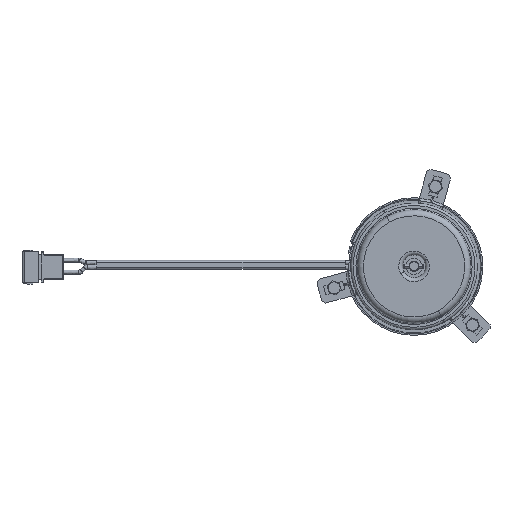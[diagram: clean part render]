
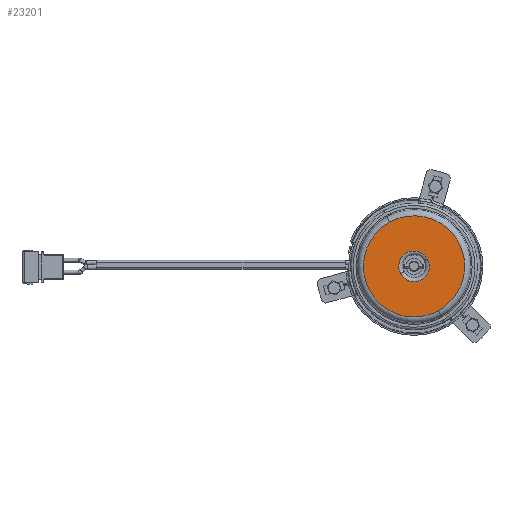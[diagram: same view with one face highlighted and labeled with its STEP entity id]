
A CAD part, top view. The second image highlights one B-rep face of the part: STEP entity #23201.
In plain terms, the highlighted planar face has unit normal (0, 0, 1).
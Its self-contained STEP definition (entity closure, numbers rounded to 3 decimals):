
#23081=AXIS2_PLACEMENT_3D('Circle Axis2P3D',#23079,#23080,$) ;
#23114=AXIS2_PLACEMENT_3D('Circle Axis2P3D',#23112,#23113,$) ;
#23177=AXIS2_PLACEMENT_3D('Plane Axis2P3D',#23174,#23175,#23176) ;
#23185=AXIS2_PLACEMENT_3D('Circle Axis2P3D',#23183,#23184,$) ;
#23194=AXIS2_PLACEMENT_3D('Circle Axis2P3D',#23192,#23193,$) ;
#23079=CARTESIAN_POINT('Axis2P3D Location',(0.,0.,71.1)) ;
#23083=CARTESIAN_POINT('Vertex',(19.513,-35.718,71.1)) ;
#23085=CARTESIAN_POINT('Vertex',(-19.513,35.718,71.1)) ;
#23112=CARTESIAN_POINT('Axis2P3D Location',(0.,0.,71.1)) ;
#23174=CARTESIAN_POINT('Axis2P3D Location',(0.,-40.7,71.1)) ;
#23183=CARTESIAN_POINT('Axis2P3D Location',(0.,0.,71.1)) ;
#23187=CARTESIAN_POINT('Vertex',(10.794,5.897,71.1)) ;
#23189=CARTESIAN_POINT('Vertex',(-10.794,-5.897,71.1)) ;
#23192=CARTESIAN_POINT('Axis2P3D Location',(0.,0.,71.1)) ;
#23080=DIRECTION('Axis2P3D Direction',(0.,0.,1.)) ;
#23113=DIRECTION('Axis2P3D Direction',(0.,0.,1.)) ;
#23175=DIRECTION('Axis2P3D Direction',(0.,0.,1.)) ;
#23176=DIRECTION('Axis2P3D XDirection',(1.,0.,0.)) ;
#23184=DIRECTION('Axis2P3D Direction',(0.,0.,1.)) ;
#23193=DIRECTION('Axis2P3D Direction',(0.,0.,1.)) ;
#23180=ORIENTED_EDGE('',*,*,#23087,.T.) ;
#23181=ORIENTED_EDGE('',*,*,#23116,.T.) ;
#23198=ORIENTED_EDGE('',*,*,#23191,.F.) ;
#23199=ORIENTED_EDGE('',*,*,#23196,.F.) ;
#23200=FACE_BOUND('',#23197,.T.) ;
#23201=ADVANCED_FACE('PartBody',(#23182,#23200),#23178,.T.) ;
#23082=CIRCLE('generated circle',#23081,40.7) ;
#23115=CIRCLE('generated circle',#23114,40.7) ;
#23186=CIRCLE('generated circle',#23185,12.3) ;
#23195=CIRCLE('generated circle',#23194,12.3) ;
#23087=EDGE_CURVE('',#23084,#23086,#23082,.T.) ;
#23116=EDGE_CURVE('',#23086,#23084,#23115,.T.) ;
#23191=EDGE_CURVE('',#23188,#23190,#23186,.T.) ;
#23196=EDGE_CURVE('',#23190,#23188,#23195,.T.) ;
#23179=EDGE_LOOP('',(#23180,#23181)) ;
#23197=EDGE_LOOP('',(#23198,#23199)) ;
#23182=FACE_OUTER_BOUND('',#23179,.T.) ;
#23178=PLANE('Plane',#23177) ;
#23084=VERTEX_POINT('',#23083) ;
#23086=VERTEX_POINT('',#23085) ;
#23188=VERTEX_POINT('',#23187) ;
#23190=VERTEX_POINT('',#23189) ;
